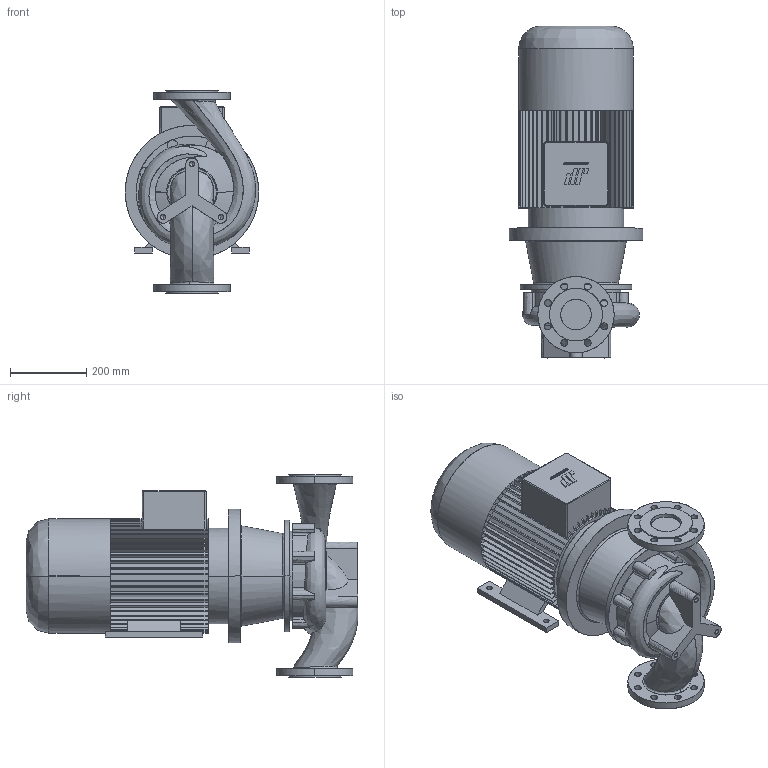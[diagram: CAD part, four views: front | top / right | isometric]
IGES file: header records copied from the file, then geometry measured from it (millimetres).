
Start section: CombiLine
Global section: file name: CLB_80-200_IEC160M_ND10.igs; native system:  By UGS Corp.; preprocessor: XPlus GENERIC/IGES 3.0; author: Stageplaats; organization: Johnson Pump Water B.V.; date: 20070717.093925; units: millimetre
Bounding box: 350 x 870 x 530 mm (x, y, z)
Surface area: 1773583.8 mm2 (no closed solid volume)
Topology: 0 solids, 0 shells, 595 faces, 3614 edges, 3608 vertices
Faces by surface type: bspline 595
